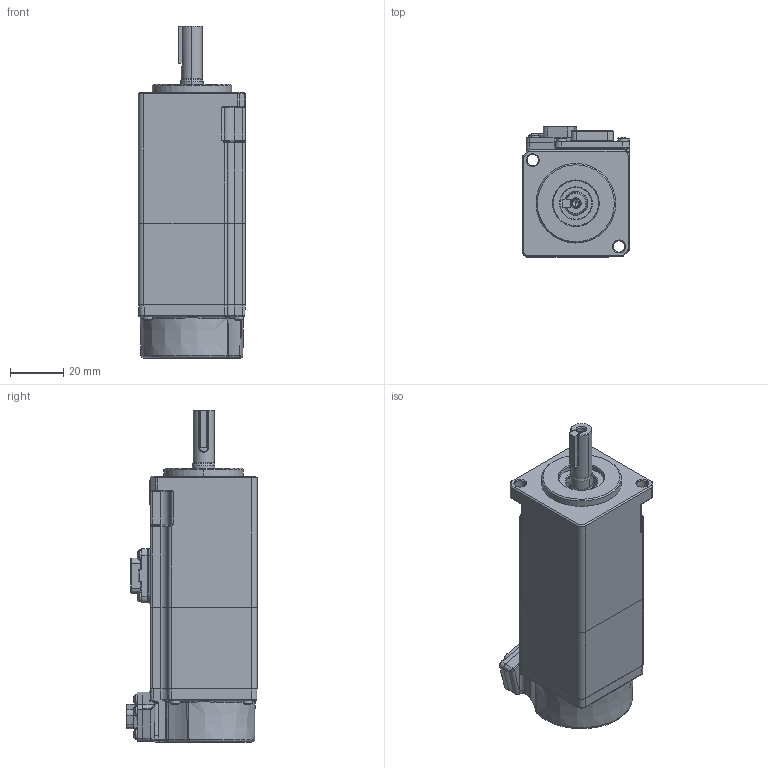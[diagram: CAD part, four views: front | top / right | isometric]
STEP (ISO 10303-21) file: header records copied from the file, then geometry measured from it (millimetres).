
FILE_DESCRIPTION (( 'STEP AP214' ), '1' );
FILE_NAME ('40法兰-100W-无油封带制动器(RSA1-H040A01B30C).STEP', '2024-09-06T08:31:32', ( '' ), ( '' ), 'SwSTEP 2.0', 'SolidWorks 2020', '' );
FILE_SCHEMA (( 'AUTOMOTIVE_DESIGN' ));
Length unit declared in the file: millimetre
Products named in the file (10): 2151000018_粣_RSA1-H040A01B30S36; 3114000001_十字槽盘头自挤螺钉_M2x5(GBT6560-2014 锌镍合金 黑色); 2174000007_綴傷裔禱矗_RSA1-H040A01B30E36; 40-100W儂褲-拸蚐猾; 40法兰-100W-无油封带制动器(RSA1-H040A01B30C); 3130000003_す瑩_B3x3x14(GBT1096-2003); 苤萇儂晤鎢傷赽; 3231000003_勾板螺丝型6pin连接器插座_GAMC3063; 2181000007_綴裔_RSA1-H040A01B30S36; 3112000005_十字槽小盘头螺钉_M2x8(GBT823-2000 锌镍合金 黑色 耐落）
Assembly tree (19 placements, depth 2):
  40法兰-100W-无油封带制动器(RSA1-H040A01B30C)
    40-100W儂褲-拸蚐猾
    2174000007_綴傷裔禱矗_RSA1-H040A01B30E36
    2181000007_綴裔_RSA1-H040A01B30S36
    3231000003_勾板螺丝型6pin连接器插座_GAMC3063
    苤萇儂晤鎢傷赽
    2151000018_粣_RSA1-H040A01B30S36
    3130000003_す瑩_B3x3x14(GBT1096-2003)
    3112000005_十字槽小盘头螺钉_M2x8(GBT823-2000 锌镍合金 黑色 耐落）  x4
    3114000001_十字槽盘头自挤螺钉_M2x5(GBT6560-2014 锌镍合金 黑色)  x8
Bounding box: 40.4 x 49.1 x 125.1 mm (x, y, z)
Volume: 77750.9 mm3; surface area: 43120.5 mm2
Topology: 21 solids, 21 shells, 3007 faces, 8082 edges, 5193 vertices
Faces by surface type: plane 1530, cylinder 605, bspline 485, cone 211, torus 146, sphere 30
Entity records: 112074 total; most frequent: CARTESIAN_POINT 38164, ORIENTED_EDGE 14310, DIRECTION 11561, EDGE_CURVE 7155, VERTEX_POINT 4605, VECTOR 4281, LINE 4281, AXIS2_PLACEMENT_3D 3640
